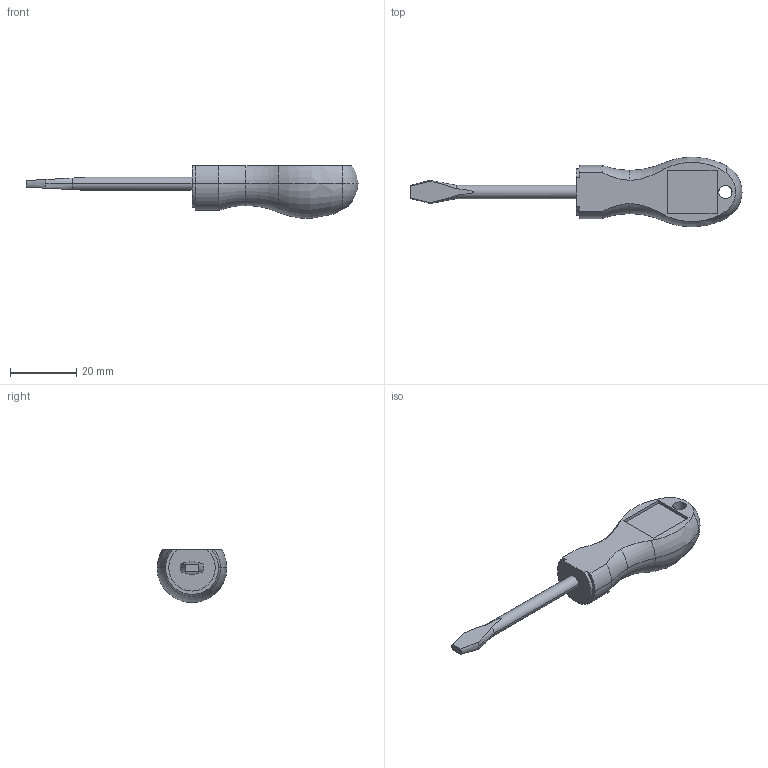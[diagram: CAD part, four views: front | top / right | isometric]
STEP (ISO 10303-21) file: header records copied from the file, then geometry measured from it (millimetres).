
FILE_DESCRIPTION (( 'STEP AP214' ), '1' );
FILE_NAME ('Îòâåðòêà øëèöåâàÿ_áåç ëîãîòèïà.STEP', '2025-02-13T23:47:00', ( '' ), ( '' ), 'SwSTEP 2.0', 'SolidWorks 2022', '' );
FILE_SCHEMA (( 'AUTOMOTIVE_DESIGN' ));
Length unit declared in the file: millimetre
Products named in the file (1): Отвертка шлицевая_без логотипа
Bounding box: 100 x 20.98 x 15.93 mm (x, y, z)
Volume: 9742.4 mm3; surface area: 3646.7 mm2
Topology: 1 solids, 1 shells, 38 faces, 97 edges, 62 vertices
Faces by surface type: plane 11, cylinder 10, torus 9, cone 6, sphere 2
Entity records: 1361 total; most frequent: CARTESIAN_POINT 400, DIRECTION 201, ORIENTED_EDGE 194, EDGE_CURVE 97, AXIS2_PLACEMENT_3D 85, VERTEX_POINT 62, CIRCLE 46, EDGE_LOOP 41
